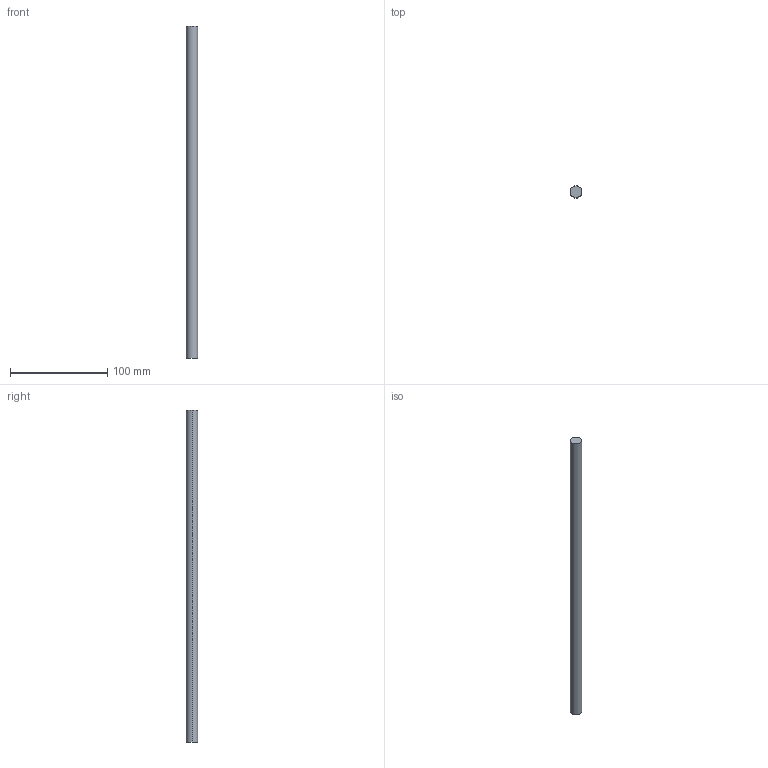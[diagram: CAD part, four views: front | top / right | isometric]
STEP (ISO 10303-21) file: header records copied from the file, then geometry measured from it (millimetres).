
FILE_DESCRIPTION (( 'STEP AP214' ), '1' );
FILE_NAME ('Magic Reling quer - S18_S19 - 450.step', '2010-09-07T14:56:11', ( 'grass' ), ( '' ), 'SwSTEP 2.0', 'SolidWorks 2010', '' );
FILE_SCHEMA (( 'AUTOMOTIVE_DESIGN' ));
Length unit declared in the file: millimetre
Products named in the file (1): Magic Reling quer - S18_S19 - 450
Bounding box: 12 x 12 x 341 mm (x, y, z)
Volume: 38566.2 mm3; surface area: 13081.6 mm2
Topology: 1 solids, 1 shells, 4 faces, 6 edges, 4 vertices
Faces by surface type: cylinder 2, plane 2
Entity records: 128 total; most frequent: DIRECTION 20, CARTESIAN_POINT 15, ORIENTED_EDGE 12, AXIS2_PLACEMENT_3D 9, EDGE_CURVE 6, FACE_OUTER_BOUND 4, CIRCLE 4, VERTEX_POINT 4
